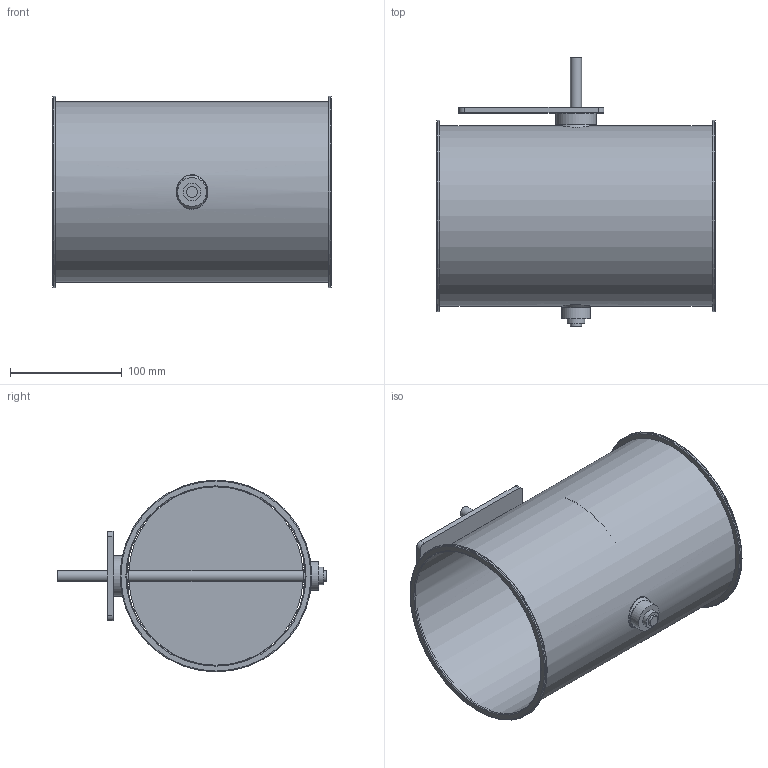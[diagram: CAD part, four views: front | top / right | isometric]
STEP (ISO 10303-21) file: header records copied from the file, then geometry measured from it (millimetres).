
FILE_DESCRIPTION(/* description */ (''),/* implementation_level */ '2;1');
FILE_NAME(/* name */ 'EA125-80B__160_L250_Belimo_Typ_LM.stp',/* time_stamp */ '2017-12-06T13:13:44+01:00',/* author */ (''),/* organization */ (''),/* preprocessor_version */ 'ST-DEVELOPER v11',/* originating_system */ 'SIEMENS UGS NX 6.0',/* authorisation */ '');
FILE_SCHEMA (('CONFIG_CONTROL_DESIGN'));
Length unit declared in the file: millimetre
Products named in the file (1): gars18E2j20z
Bounding box: 250 x 241 x 172 mm (x, y, z)
Volume: 224187.8 mm3; surface area: 343183.5 mm2
Topology: 8 solids, 8 shells, 76 faces, 161 edges, 109 vertices
Faces by surface type: plane 30, cylinder 28, torus 10, cone 4, bspline 4
Full cylindrical faces by diameter (mm): 4.1 x4, 10 x3, 15 x3, 15.85 x2, 16 x2, 24 x2, 26 x1, 36 x1, 160 x1, 161.6 x1, 172 x2
Entity records: 2394 total; most frequent: CARTESIAN_POINT 871, DIRECTION 310, ORIENTED_EDGE 204, EDGE_LOOP 148, AXIS2_PLACEMENT_3D 143, FACE_BOUND 134, EDGE_CURVE 102, VERTEX_POINT 90
